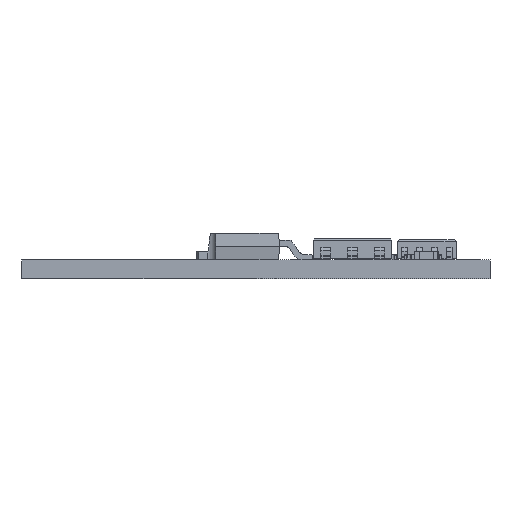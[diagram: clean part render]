
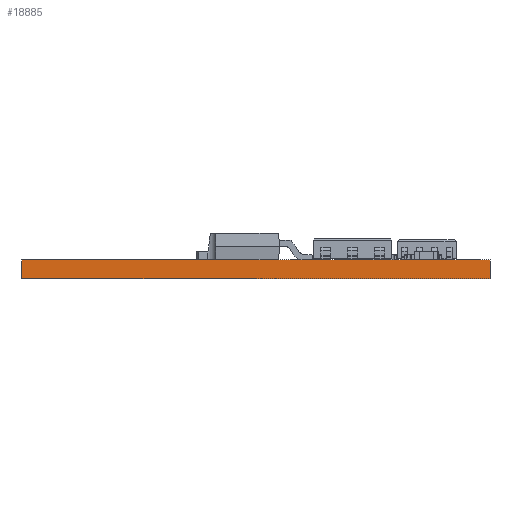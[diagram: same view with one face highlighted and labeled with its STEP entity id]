
A CAD part, left-side view. The second image highlights one B-rep face of the part: STEP entity #18885.
In plain terms, the highlighted planar face has unit normal (-1, 0, 0).
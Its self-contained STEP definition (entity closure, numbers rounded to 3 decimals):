
#1129=PLANE('',#20232);
#1842=FACE_OUTER_BOUND('',#2848,.T.);
#2848=EDGE_LOOP('',(#13400,#13401,#13402,#13403));
#4041=LINE('',#26972,#6072);
#4049=LINE('',#26987,#6080);
#4050=LINE('',#26989,#6081);
#4051=LINE('',#26990,#6082);
#6072=VECTOR('',#22040,10.);
#6080=VECTOR('',#22052,10.);
#6081=VECTOR('',#22055,10.);
#6082=VECTOR('',#22056,10.);
#8706=VERTEX_POINT('',#26969);
#8707=VERTEX_POINT('',#26971);
#8711=VERTEX_POINT('',#26983);
#8712=VERTEX_POINT('',#26985);
#10575=EDGE_CURVE('',#8706,#8707,#4041,.T.);
#10583=EDGE_CURVE('',#8711,#8712,#4049,.T.);
#10584=EDGE_CURVE('',#8706,#8711,#4050,.T.);
#10585=EDGE_CURVE('',#8707,#8712,#4051,.T.);
#13400=ORIENTED_EDGE('',*,*,#10584,.T.);
#13401=ORIENTED_EDGE('',*,*,#10583,.T.);
#13402=ORIENTED_EDGE('',*,*,#10585,.F.);
#13403=ORIENTED_EDGE('',*,*,#10575,.F.);
#18885=ADVANCED_FACE('',(#1842),#1129,.T.);
#20232=AXIS2_PLACEMENT_3D('',#26988,#22053,#22054);
#22040=DIRECTION('',(0.,0.,1.));
#22052=DIRECTION('',(0.,0.,1.));
#22053=DIRECTION('center_axis',(-1.,0.,0.));
#22054=DIRECTION('ref_axis',(0.,-1.,0.));
#22055=DIRECTION('',(0.,-1.,0.));
#22056=DIRECTION('',(0.,-1.,0.));
#26969=CARTESIAN_POINT('',(0.,40.,0.));
#26971=CARTESIAN_POINT('',(0.,40.,1.623));
#26972=CARTESIAN_POINT('',(0.,40.,0.));
#26983=CARTESIAN_POINT('',(0.,0.,0.));
#26985=CARTESIAN_POINT('',(0.,0.,1.623));
#26987=CARTESIAN_POINT('',(0.,0.,0.));
#26988=CARTESIAN_POINT('Origin',(0.,40.,0.));
#26989=CARTESIAN_POINT('',(0.,40.,0.));
#26990=CARTESIAN_POINT('',(0.,40.,1.623));
